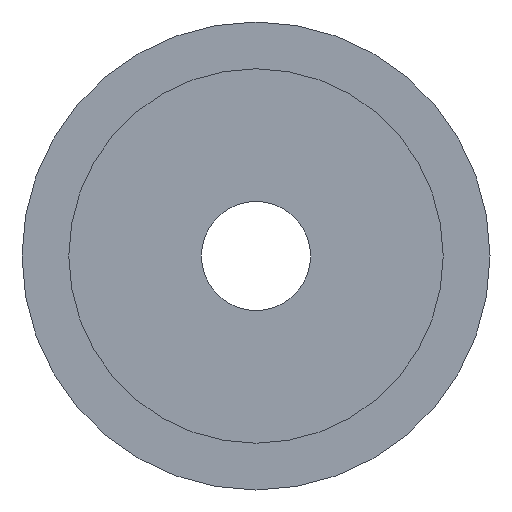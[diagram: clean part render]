
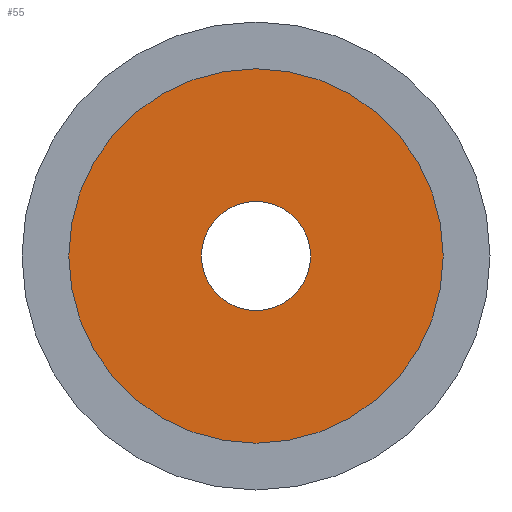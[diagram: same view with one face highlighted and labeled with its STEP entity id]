
A CAD part, left-side view. The second image highlights one B-rep face of the part: STEP entity #55.
In plain terms, the highlighted planar face has unit normal (-1, 0, 0).
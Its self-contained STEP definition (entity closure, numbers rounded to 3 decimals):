
#18 = CARTESIAN_POINT ( 'NONE',  ( 0., 0., -12. ) ) ;
#20 = CARTESIAN_POINT ( 'NONE',  ( 0., 0., 12. ) ) ;
#55 = ADVANCED_FACE ( 'NONE', ( #202, #201 ), #200, .F. ) ;
#56 = EDGE_LOOP ( 'NONE', ( #57, #186 ) ) ;
#57 = ORIENTED_EDGE ( 'NONE', *, *, #58, .F. ) ;
#58 = EDGE_CURVE ( 'NONE', #65, #68, #195, .T. ) ;
#65 = VERTEX_POINT ( 'NONE', #20 ) ;
#68 = VERTEX_POINT ( 'NONE', #18 ) ;
#76 = EDGE_CURVE ( 'NONE', #68, #65, #152, .T. ) ;
#113 = VERTEX_POINT ( 'NONE', #270 ) ;
#115 = EDGE_CURVE ( 'NONE', #116, #113, #269, .T. ) ;
#116 = VERTEX_POINT ( 'NONE', #264 ) ;
#148 = DIRECTION ( 'NONE',  ( 0., 0., -1. ) ) ;
#149 = DIRECTION ( 'NONE',  ( 1., 0., 0. ) ) ;
#150 = CARTESIAN_POINT ( 'NONE',  ( 0., 0., 0. ) ) ;
#151 = AXIS2_PLACEMENT_3D ( 'NONE', #150, #149, #148 ) ;
#152 = CIRCLE ( 'NONE', #151, 12. ) ;
#177 = ORIENTED_EDGE ( 'NONE', *, *, #178, .T. ) ;
#178 = EDGE_CURVE ( 'NONE', #113, #116, #376, .T. ) ;
#186 = ORIENTED_EDGE ( 'NONE', *, *, #76, .F. ) ;
#187 = EDGE_LOOP ( 'NONE', ( #188, #177 ) ) ;
#188 = ORIENTED_EDGE ( 'NONE', *, *, #115, .T. ) ;
#191 = DIRECTION ( 'NONE',  ( 0., 0., -1. ) ) ;
#192 = DIRECTION ( 'NONE',  ( 1., 0., 0. ) ) ;
#193 = CARTESIAN_POINT ( 'NONE',  ( 0., 0., 0. ) ) ;
#194 = AXIS2_PLACEMENT_3D ( 'NONE', #193, #192, #191 ) ;
#195 = CIRCLE ( 'NONE', #194, 12. ) ;
#196 = DIRECTION ( 'NONE',  ( 0., 0., -1. ) ) ;
#197 = DIRECTION ( 'NONE',  ( 1., 0., 0. ) ) ;
#198 = CARTESIAN_POINT ( 'NONE',  ( 0., 0., 0. ) ) ;
#199 = AXIS2_PLACEMENT_3D ( 'NONE', #198, #197, #196 ) ;
#200 = PLANE ( 'NONE',  #199 ) ;
#201 = FACE_BOUND ( 'NONE', #187, .T. ) ;
#202 = FACE_OUTER_BOUND ( 'NONE', #56, .T. ) ;
#264 = CARTESIAN_POINT ( 'NONE',  ( 0., 0., 3.5 ) ) ;
#265 = DIRECTION ( 'NONE',  ( 0., 0., -1. ) ) ;
#266 = DIRECTION ( 'NONE',  ( 1., 0., 0. ) ) ;
#267 = CARTESIAN_POINT ( 'NONE',  ( 0., 0., 0. ) ) ;
#268 = AXIS2_PLACEMENT_3D ( 'NONE', #267, #266, #265 ) ;
#269 = CIRCLE ( 'NONE', #268, 3.5 ) ;
#270 = CARTESIAN_POINT ( 'NONE',  ( 0., 0., -3.5 ) ) ;
#372 = DIRECTION ( 'NONE',  ( 0., 0., -1. ) ) ;
#373 = DIRECTION ( 'NONE',  ( 1., 0., 0. ) ) ;
#374 = CARTESIAN_POINT ( 'NONE',  ( 0., 0., 0. ) ) ;
#375 = AXIS2_PLACEMENT_3D ( 'NONE', #374, #373, #372 ) ;
#376 = CIRCLE ( 'NONE', #375, 3.5 ) ;
